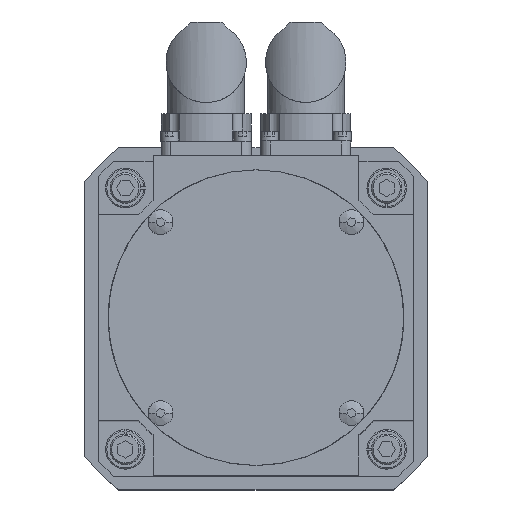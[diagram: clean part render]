
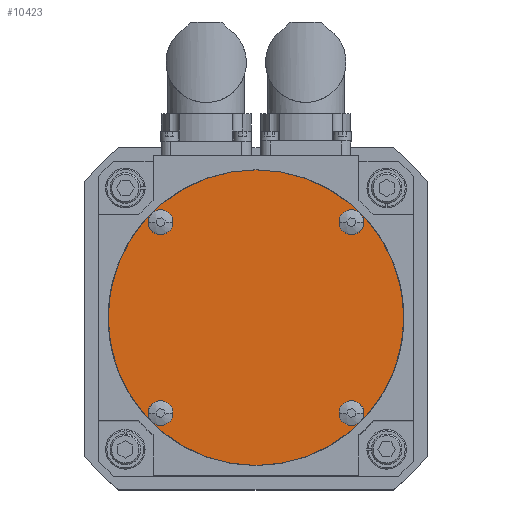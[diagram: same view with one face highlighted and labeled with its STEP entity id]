
A CAD part, top view. The second image highlights one B-rep face of the part: STEP entity #10423.
In plain terms, the highlighted planar face has unit normal (0, 0, 1) as drawn and (0, 1, 0) by its records, which use the part's own axes.
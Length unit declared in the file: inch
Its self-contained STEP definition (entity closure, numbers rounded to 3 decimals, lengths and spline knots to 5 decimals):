
#913 = CARTESIAN_POINT ( 'NONE',  ( -1.16923, 7.61811, -1.16923 ) ) ;
#914 = AXIS2_PLACEMENT_3D ( 'NONE', #913, #967, #966 ) ;
#915 = CIRCLE ( 'NONE', #914, 0.15248 ) ;
#964 = CARTESIAN_POINT ( 'NONE',  ( -1.16923, 7.61811, -1.32171 ) ) ;
#965 = CARTESIAN_POINT ( 'NONE',  ( -1.16923, 7.61811, -1.01675 ) ) ;
#966 = DIRECTION ( 'NONE',  ( 0., 0., 1. ) ) ;
#967 = DIRECTION ( 'NONE',  ( 0., 1., 0. ) ) ;
#975 = DIRECTION ( 'NONE',  ( 0., 0., 1. ) ) ;
#976 = DIRECTION ( 'NONE',  ( 0., 1., 0. ) ) ;
#1002 = CARTESIAN_POINT ( 'NONE',  ( -1.16923, 7.61811, 1.16923 ) ) ;
#1003 = AXIS2_PLACEMENT_3D ( 'NONE', #1002, #976, #975 ) ;
#1024 = CIRCLE ( 'NONE', #1003, 0.15248 ) ;
#1113 = CARTESIAN_POINT ( 'NONE',  ( -1.16923, 7.61811, 1.01675 ) ) ;
#1114 = CARTESIAN_POINT ( 'NONE',  ( -1.16923, 7.61811, 1.32171 ) ) ;
#1142 = CARTESIAN_POINT ( 'NONE',  ( 1.16923, 7.61811, 1.01675 ) ) ;
#1143 = CARTESIAN_POINT ( 'NONE',  ( 1.16923, 7.61811, 1.32171 ) ) ;
#1144 = DIRECTION ( 'NONE',  ( 0., 0., 1. ) ) ;
#1145 = DIRECTION ( 'NONE',  ( 0., 1., 0. ) ) ;
#1146 = CARTESIAN_POINT ( 'NONE',  ( 1.16923, 7.61811, 1.16923 ) ) ;
#1147 = AXIS2_PLACEMENT_3D ( 'NONE', #1146, #1145, #1144 ) ;
#1148 = CIRCLE ( 'NONE', #1147, 0.15248 ) ;
#1151 = CARTESIAN_POINT ( 'NONE',  ( 1.16923, 7.61811, -1.32171 ) ) ;
#1152 = CARTESIAN_POINT ( 'NONE',  ( 1.16923, 7.61811, -1.01675 ) ) ;
#1153 = DIRECTION ( 'NONE',  ( 0., 0., 1. ) ) ;
#1154 = DIRECTION ( 'NONE',  ( 0., 1., 0. ) ) ;
#1155 = CARTESIAN_POINT ( 'NONE',  ( 1.16923, 7.61811, -1.16923 ) ) ;
#1222 = AXIS2_PLACEMENT_3D ( 'NONE', #1155, #1154, #1153 ) ;
#1223 = CIRCLE ( 'NONE', #1222, 0.15248 ) ;
#1349 = CARTESIAN_POINT ( 'NONE',  ( 0., 7.61811, 1.81102 ) ) ;
#1350 = CARTESIAN_POINT ( 'NONE',  ( 0., 7.61811, -1.81102 ) ) ;
#1351 = DIRECTION ( 'NONE',  ( 0., 0., 1. ) ) ;
#1352 = DIRECTION ( 'NONE',  ( 0., 1., 0. ) ) ;
#1353 = CARTESIAN_POINT ( 'NONE',  ( 0., 7.61811, 0. ) ) ;
#1354 = AXIS2_PLACEMENT_3D ( 'NONE', #1353, #1352, #1351 ) ;
#1356 = CIRCLE ( 'NONE', #1354, 1.81102 ) ;
#9923 = EDGE_CURVE ( 'NONE', #12769, #12768, #18052, .T. ) ;
#9931 = EDGE_CURVE ( 'NONE', #12942, #12941, #17932, .T. ) ;
#9950 = EDGE_CURVE ( 'NONE', #12849, #12848, #17984, .T. ) ;
#10099 = EDGE_CURVE ( 'NONE', #12860, #12859, #18069, .T. ) ;
#10416 = ORIENTED_EDGE ( 'NONE', *, *, #10099, .F. ) ;
#10417 = EDGE_CURVE ( 'NONE', #12960, #12959, #19527, .T. ) ;
#10418 = EDGE_LOOP ( 'NONE', ( #10748, #10422 ) ) ;
#10419 = ORIENTED_EDGE ( 'NONE', *, *, #12767, .F. ) ;
#10420 = ORIENTED_EDGE ( 'NONE', *, *, #9923, .F. ) ;
#10422 = ORIENTED_EDGE ( 'NONE', *, *, #12958, .T. ) ;
#10423 = ADVANCED_FACE ( 'FACE316', ( #19522, #19521, #19520, #19519, #19518 ), #19599, .F. ) ;
#10564 = EDGE_LOOP ( 'NONE', ( #10614, #10754 ) ) ;
#10570 = ORIENTED_EDGE ( 'NONE', *, *, #12858, .F. ) ;
#10610 = ORIENTED_EDGE ( 'NONE', *, *, #9931, .F. ) ;
#10614 = ORIENTED_EDGE ( 'NONE', *, *, #12847, .F. ) ;
#10633 = EDGE_LOOP ( 'NONE', ( #10419, #10420 ) ) ;
#10723 = EDGE_LOOP ( 'NONE', ( #10745, #10610 ) ) ;
#10745 = ORIENTED_EDGE ( 'NONE', *, *, #12773, .F. ) ;
#10748 = ORIENTED_EDGE ( 'NONE', *, *, #10417, .T. ) ;
#10753 = EDGE_LOOP ( 'NONE', ( #10570, #10416 ) ) ;
#10754 = ORIENTED_EDGE ( 'NONE', *, *, #9950, .F. ) ;
#12767 = EDGE_CURVE ( 'NONE', #12768, #12769, #915, .T. ) ;
#12768 = VERTEX_POINT ( 'NONE', #965 ) ;
#12769 = VERTEX_POINT ( 'NONE', #964 ) ;
#12773 = EDGE_CURVE ( 'NONE', #12941, #12942, #1024, .T. ) ;
#12847 = EDGE_CURVE ( 'NONE', #12848, #12849, #1223, .T. ) ;
#12848 = VERTEX_POINT ( 'NONE', #1152 ) ;
#12849 = VERTEX_POINT ( 'NONE', #1151 ) ;
#12858 = EDGE_CURVE ( 'NONE', #12859, #12860, #1148, .T. ) ;
#12859 = VERTEX_POINT ( 'NONE', #1143 ) ;
#12860 = VERTEX_POINT ( 'NONE', #1142 ) ;
#12941 = VERTEX_POINT ( 'NONE', #1114 ) ;
#12942 = VERTEX_POINT ( 'NONE', #1113 ) ;
#12958 = EDGE_CURVE ( 'NONE', #12959, #12960, #1356, .T. ) ;
#12959 = VERTEX_POINT ( 'NONE', #1350 ) ;
#12960 = VERTEX_POINT ( 'NONE', #1349 ) ;
#17931 = CARTESIAN_POINT ( 'NONE',  ( -1.16923, 7.61811, 1.16923 ) ) ;
#17932 = CIRCLE ( 'NONE', #17994, 0.15248 ) ;
#17941 = DIRECTION ( 'NONE',  ( 0., 0., 1. ) ) ;
#17942 = DIRECTION ( 'NONE',  ( 0., 1., 0. ) ) ;
#17982 = CARTESIAN_POINT ( 'NONE',  ( 1.16923, 7.61811, -1.16923 ) ) ;
#17983 = AXIS2_PLACEMENT_3D ( 'NONE', #17982, #17942, #17941 ) ;
#17984 = CIRCLE ( 'NONE', #17983, 0.15248 ) ;
#17992 = DIRECTION ( 'NONE',  ( 0., 0., 1. ) ) ;
#17993 = DIRECTION ( 'NONE',  ( 0., 1., 0. ) ) ;
#17994 = AXIS2_PLACEMENT_3D ( 'NONE', #17931, #17993, #17992 ) ;
#18029 = AXIS2_PLACEMENT_3D ( 'NONE', #18047, #18046, #18045 ) ;
#18045 = DIRECTION ( 'NONE',  ( 0., 0., 1. ) ) ;
#18046 = DIRECTION ( 'NONE',  ( 0., 1., 0. ) ) ;
#18047 = CARTESIAN_POINT ( 'NONE',  ( -1.16923, 7.61811, -1.16923 ) ) ;
#18052 = CIRCLE ( 'NONE', #18029, 0.15248 ) ;
#18063 = CARTESIAN_POINT ( 'NONE',  ( 1.16923, 7.61811, 1.16923 ) ) ;
#18064 = AXIS2_PLACEMENT_3D ( 'NONE', #18063, #18148, #18147 ) ;
#18069 = CIRCLE ( 'NONE', #18064, 0.15248 ) ;
#18147 = DIRECTION ( 'NONE',  ( 0., 0., 1. ) ) ;
#18148 = DIRECTION ( 'NONE',  ( 0., 1., 0. ) ) ;
#19518 = FACE_BOUND ( 'NONE', #10753, .T. ) ;
#19519 = FACE_BOUND ( 'NONE', #10633, .T. ) ;
#19520 = FACE_OUTER_BOUND ( 'NONE', #10418, .T. ) ;
#19521 = FACE_BOUND ( 'NONE', #10723, .T. ) ;
#19522 = FACE_BOUND ( 'NONE', #10564, .T. ) ;
#19523 = DIRECTION ( 'NONE',  ( 0., 0., 1. ) ) ;
#19524 = DIRECTION ( 'NONE',  ( 0., 1., 0. ) ) ;
#19525 = CARTESIAN_POINT ( 'NONE',  ( 0., 7.61811, 0. ) ) ;
#19526 = AXIS2_PLACEMENT_3D ( 'NONE', #19525, #19524, #19523 ) ;
#19527 = CIRCLE ( 'NONE', #19526, 1.81102 ) ;
#19595 = DIRECTION ( 'NONE',  ( 0., 0., -1. ) ) ;
#19596 = DIRECTION ( 'NONE',  ( 0., -1., 0. ) ) ;
#19597 = AXIS2_PLACEMENT_3D ( 'NONE', #19598, #19596, #19595 ) ;
#19598 = CARTESIAN_POINT ( 'NONE',  ( 0., 7.61811, 0. ) ) ;
#19599 = PLANE ( 'NONE',  #19597 ) ;
